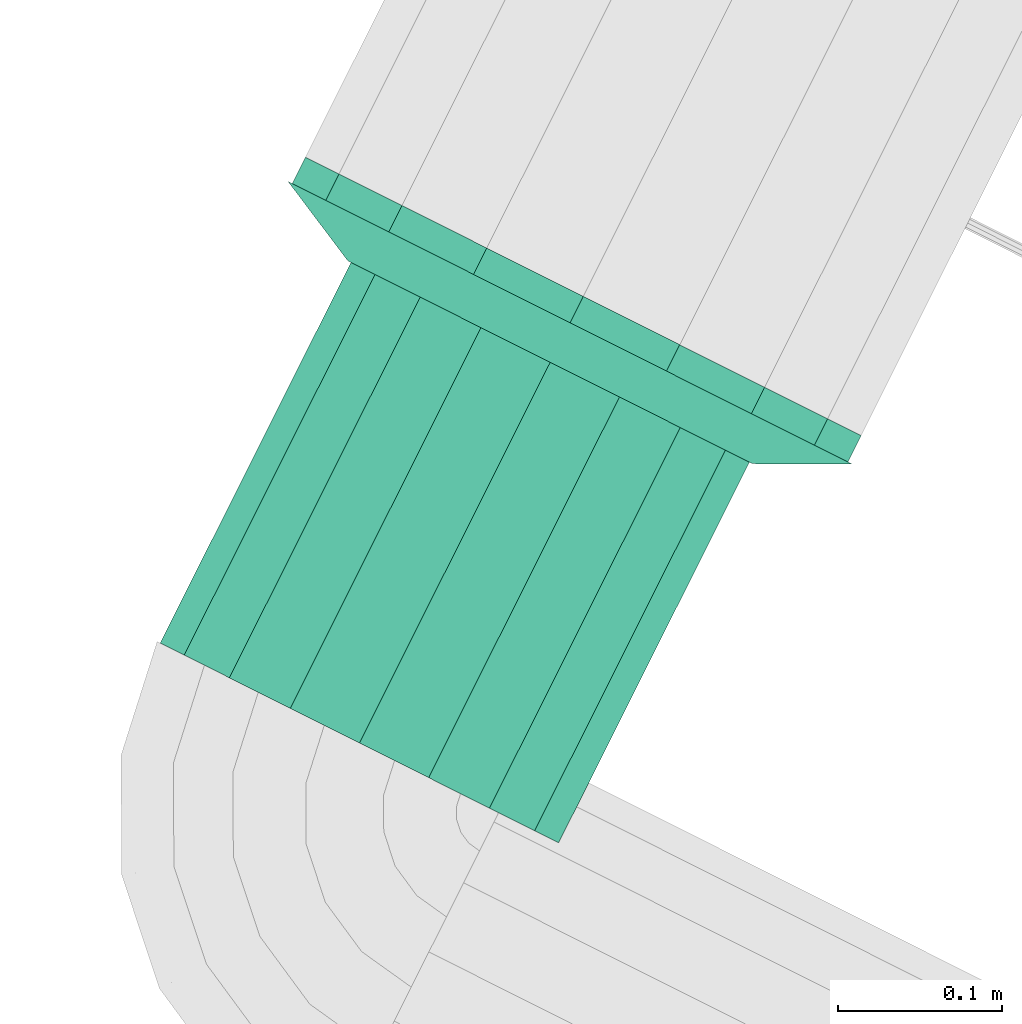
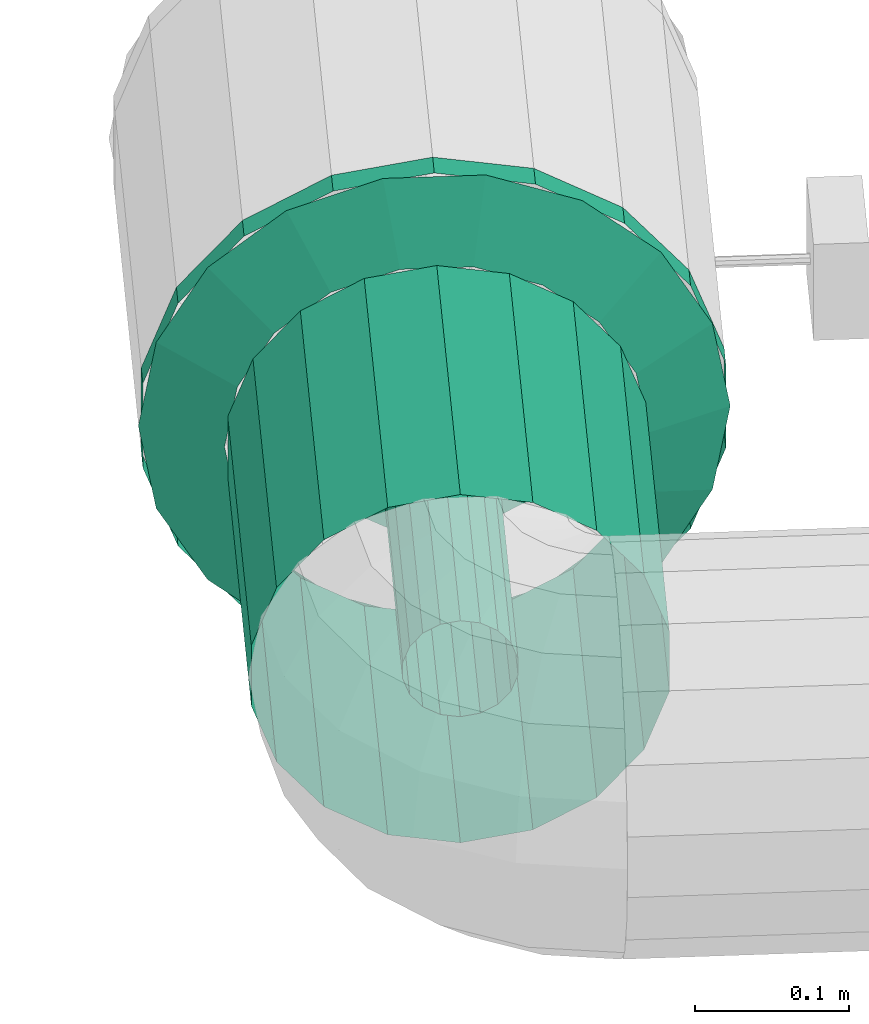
# One storey, part 36 of 152: 1 flow fitting, 1 flow segment.
"""IFC2X3 building model written with IfcOpenShell, lengths in metres."""

from ifc_helpers import new_model, si_unit, derived_unit, direction, frame, origin, place, context, subcontext, project, spatial, face_set, surface_model, source, transform, mapped, material, type_object, type_shapes, element, save


model = new_model("IFC2X3")

# Units and contexts
model_context = context("Model", 3, precision=5.2338327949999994e-05, world=origin(), true_north=direction((0.0, 1.0)))
body_context = subcontext(model_context, "Body", "Model", "MODEL_VIEW")
ifc_project = project(units=[si_unit("LENGTHUNIT", "METRE"), si_unit("AREAUNIT", "SQUARE_METRE"), si_unit("VOLUMEUNIT", "CUBIC_METRE"), si_unit("MASSUNIT", "GRAM", prefix="KILO"), si_unit("PLANEANGLEUNIT", "RADIAN"), derived_unit("THERMALTRANSMITTANCEUNIT", [(si_unit("MASSUNIT", "GRAM", prefix="KILO"), 1), (si_unit("THERMODYNAMICTEMPERATUREUNIT", "KELVIN"), -1), (si_unit("TIMEUNIT", "SECOND"), -3)])], contexts=[model_context])

# Site, building, storey
site_placement = place(None, frame((0.0, 0.0, 0.0), z_axis=(0.0, 0.0, 1.0), x_axis=(0.8939966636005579, -0.4480736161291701, 0.0)))
site = spatial("IfcSite", under=ifc_project, at=site_placement, Name="Default", CompositionType="ELEMENT")
building_placement = place(site_placement, origin())
building = spatial("IfcBuilding", under=site, at=building_placement, CompositionType="ELEMENT")
storey_placement = place(building_placement, frame((0.0, 0.0, 2.7499999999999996)))
storey = spatial("IfcBuildingStorey", under=building, at=storey_placement, Name="1. Obergeschoss", CompositionType="ELEMENT", Elevation=2.7499999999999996)

# Flow fitting
ifc_material = material(Name="IfcSurfaceStyle #1741")
distribution_element_type_1 = type_object("IfcDistributionElementType", Name="Flansch 259128:Flansch 259128", material=ifc_material)
shared_shape_1 = source(origin(), body_context, "Body", "SurfaceModel", [
    surface_model("IfcFaceBasedSurfaceModel", [(14.431319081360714, 6.744494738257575, 5.635640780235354), (14.429024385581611, 6.744494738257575, 5.622626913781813), (14.435555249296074, 6.771494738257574, 5.620249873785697), (14.438269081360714, 6.771494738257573, 5.635640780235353), (14.422417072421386, 6.744494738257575, 5.61118271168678), (14.427741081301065, 6.771494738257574, 5.606715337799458), (14.412294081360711, 6.744494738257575, 5.602688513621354), (14.415769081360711, 6.771494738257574, 5.596669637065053), (14.399876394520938, 6.74449473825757, 5.598168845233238), (14.401083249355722, 6.771494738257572, 5.591324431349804), (14.386661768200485, 6.744494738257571, 5.598168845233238), (14.385454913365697, 6.771494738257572, 5.591324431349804), (14.37424408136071, 6.744494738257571, 5.6026885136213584), (14.370769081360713, 6.7714947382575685, 5.596669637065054), (14.364121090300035, 6.744494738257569, 5.611182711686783), (14.358797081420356, 6.7714947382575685, 5.606715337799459), (14.357513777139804, 6.744494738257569, 5.622626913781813), (14.350982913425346, 6.7714947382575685, 5.620249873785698), (14.355219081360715, 6.744494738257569, 5.635640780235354), (14.34826908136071, 6.7714947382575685, 5.635640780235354), (14.357513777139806, 6.744494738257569, 5.648654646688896), (14.350982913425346, 6.7714947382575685, 5.651031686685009), (14.364121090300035, 6.744494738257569, 5.660098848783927), (14.358797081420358, 6.7714947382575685, 5.664566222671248), (14.374244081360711, 6.744494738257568, 5.668593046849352), (14.370769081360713, 6.7714947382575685, 5.674611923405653), (14.386661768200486, 6.744494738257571, 5.673112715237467), (14.385454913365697, 6.77149473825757, 5.679957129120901), (14.399876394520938, 6.744494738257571, 5.673112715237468), (14.401083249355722, 6.771494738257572, 5.679957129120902), (14.412294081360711, 6.744494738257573, 5.668593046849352), (14.415769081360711, 6.771494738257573, 5.674611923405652), (14.422417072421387, 6.744494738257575, 5.6600988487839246), (14.427741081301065, 6.771494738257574, 5.664566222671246), (14.42902438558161, 6.7444947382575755, 5.648654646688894), (14.435555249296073, 6.771494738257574, 5.651031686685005), (14.393269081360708, 6.77149473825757, 5.7281407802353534), (14.424905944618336, 6.771494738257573, 5.722562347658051), (14.424905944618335, 6.7894947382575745, 5.722562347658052), (14.393269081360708, 6.789494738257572, 5.7281407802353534), (14.452726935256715, 6.7714947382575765, 5.706499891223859), (14.452726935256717, 6.789494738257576, 5.706499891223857), (14.47337643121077, 6.771494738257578, 5.681890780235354), (14.47337643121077, 6.789494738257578, 5.681890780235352), (14.484363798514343, 6.771494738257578, 5.651703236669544), (14.484363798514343, 6.78949473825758, 5.651703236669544), (14.484363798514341, 6.771494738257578, 5.619578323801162), (14.484363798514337, 6.78949473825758, 5.619578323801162), (14.473376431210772, 6.7714947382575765, 5.589390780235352), (14.473376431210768, 6.789494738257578, 5.589390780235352), (14.452726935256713, 6.7714947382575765, 5.564781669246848), (14.452726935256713, 6.789494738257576, 5.564781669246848), (14.424905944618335, 6.771494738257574, 5.548719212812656), (14.424905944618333, 6.789494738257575, 5.548719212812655), (14.393269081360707, 6.771494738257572, 5.543140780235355), (14.393269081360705, 6.789494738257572, 5.543140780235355), (14.361632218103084, 6.771494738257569, 5.548719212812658), (14.361632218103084, 6.789494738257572, 5.548719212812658), (14.333811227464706, 6.771494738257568, 5.564781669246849), (14.333811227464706, 6.789494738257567, 5.564781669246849), (14.313161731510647, 6.771494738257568, 5.589390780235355), (14.313161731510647, 6.789494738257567, 5.589390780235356), (14.302174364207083, 6.771494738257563, 5.619578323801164), (14.302174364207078, 6.789494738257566, 5.619578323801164), (14.302174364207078, 6.771494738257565, 5.651703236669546), (14.302174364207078, 6.789494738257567, 5.6517032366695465), (14.313161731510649, 6.771494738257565, 5.681890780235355), (14.313161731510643, 6.789494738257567, 5.6818907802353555), (14.333811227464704, 6.771494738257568, 5.706499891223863), (14.333811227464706, 6.789494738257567, 5.706499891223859), (14.361632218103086, 6.7714947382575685, 5.722562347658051), (14.361632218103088, 6.78949473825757, 5.722562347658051), (14.393269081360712, 6.77149473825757, 5.635640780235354), (14.531319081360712, 6.74449473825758, 5.635640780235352), (14.522993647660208, 6.744494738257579, 5.588424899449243), (14.574159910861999, 6.771494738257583, 5.5698019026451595), (14.58576908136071, 6.771494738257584, 5.635640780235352), (14.499021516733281, 6.744494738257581, 5.546903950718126), (14.54073263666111, 6.771494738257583, 5.511904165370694), (14.462294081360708, 6.744494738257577, 5.5160859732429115), (14.489519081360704, 6.771494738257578, 5.468930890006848), (14.417241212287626, 6.744494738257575, 5.499688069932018), (14.426696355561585, 6.771494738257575, 5.446065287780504), (14.369296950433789, 6.74449473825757, 5.499688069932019), (14.359841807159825, 6.771494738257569, 5.446065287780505), (14.32424408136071, 6.744494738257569, 5.516085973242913), (14.297019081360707, 6.771494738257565, 5.468930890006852), (14.28751664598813, 6.744494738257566, 5.5469039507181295), (14.245805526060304, 6.771494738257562, 5.511904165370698), (14.263544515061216, 6.744494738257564, 5.588424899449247), (14.212378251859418, 6.771494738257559, 5.569801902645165), (14.255219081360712, 6.744494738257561, 5.635640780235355), (14.20076908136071, 6.771494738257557, 5.635640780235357), (14.263544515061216, 6.744494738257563, 5.682856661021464), (14.212378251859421, 6.771494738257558, 5.701479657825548), (14.287516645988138, 6.744494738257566, 5.724377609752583), (14.245805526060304, 6.771494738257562, 5.759377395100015), (14.324244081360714, 6.7444947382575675, 5.755195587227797), (14.29701908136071, 6.771494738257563, 5.80235067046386), (14.369296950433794, 6.744494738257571, 5.771593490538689), (14.35984180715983, 6.7714947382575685, 5.825216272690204), (14.417241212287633, 6.744494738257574, 5.771593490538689), (14.426696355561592, 6.771494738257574, 5.825216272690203), (14.462294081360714, 6.744494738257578, 5.755195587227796), (14.489519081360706, 6.771494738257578, 5.8023506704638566), (14.499021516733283, 6.744494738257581, 5.724377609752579), (14.540732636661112, 6.771494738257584, 5.759377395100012), (14.522993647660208, 6.74449473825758, 5.682856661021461), (14.574159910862, 6.771494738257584, 5.701479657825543), (14.393269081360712, 6.771494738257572, 5.828140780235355), (14.459107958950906, 6.7714947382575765, 5.816531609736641), (14.459107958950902, 6.789494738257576, 5.816531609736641), (14.393269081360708, 6.789494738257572, 5.828140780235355), (14.51700569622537, 6.771494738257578, 5.783104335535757), (14.51700569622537, 6.789494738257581, 5.783104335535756), (14.559978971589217, 6.771494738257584, 5.731890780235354), (14.559978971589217, 6.789494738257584, 5.731890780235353), (14.582844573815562, 6.771494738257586, 5.669068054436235), (14.582844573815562, 6.789494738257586, 5.669068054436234), (14.58284457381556, 6.7714947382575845, 5.602213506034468), (14.582844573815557, 6.789494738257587, 5.602213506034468), (14.559978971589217, 6.7714947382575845, 5.539390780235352), (14.559978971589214, 6.789494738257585, 5.539390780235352), (14.51700569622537, 6.77149473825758, 5.488177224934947), (14.51700569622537, 6.789494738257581, 5.488177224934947), (14.459107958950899, 6.771494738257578, 5.454749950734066), (14.459107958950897, 6.789494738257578, 5.454749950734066), (14.393269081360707, 6.771494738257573, 5.443140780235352), (14.393269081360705, 6.789494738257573, 5.443140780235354), (14.327430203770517, 6.7714947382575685, 5.454749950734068), (14.327430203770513, 6.789494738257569, 5.454749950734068), (14.269532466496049, 6.771494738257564, 5.488177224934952), (14.269532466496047, 6.789494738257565, 5.488177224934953), (14.226559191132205, 6.77149473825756, 5.5393907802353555), (14.226559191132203, 6.789494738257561, 5.539390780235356), (14.203693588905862, 6.771494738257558, 5.602213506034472), (14.203693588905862, 6.789494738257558, 5.602213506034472), (14.203693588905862, 6.771494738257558, 5.669068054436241), (14.203693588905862, 6.7894947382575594, 5.669068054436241), (14.226559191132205, 6.771494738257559, 5.731890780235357), (14.226559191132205, 6.7894947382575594, 5.731890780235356), (14.26953246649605, 6.771494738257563, 5.78310433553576), (14.269532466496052, 6.789494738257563, 5.78310433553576), (14.32743020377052, 6.771494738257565, 5.816531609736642), (14.32743020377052, 6.789494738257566, 5.816531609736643)], [face_set([[[0, 1, 2, 3]], [[1, 4, 5, 2]], [[4, 6, 7, 5]], [[6, 8, 9, 7]], [[8, 10, 11, 9]], [[10, 12, 13, 11]], [[12, 14, 15, 13]], [[14, 16, 17, 15]], [[16, 18, 19, 17]], [[18, 20, 21, 19]], [[20, 22, 23, 21]], [[22, 24, 25, 23]], [[24, 26, 27, 25]], [[26, 28, 29, 27]], [[28, 30, 31, 29]], [[30, 32, 33, 31]], [[32, 34, 35, 33]], [[34, 0, 3, 35]], [[36, 37, 38, 39]], [[37, 40, 41, 38]], [[40, 42, 43, 41]], [[42, 44, 45, 43]], [[44, 46, 47, 45]], [[46, 48, 49, 47]], [[48, 50, 51, 49]], [[50, 52, 53, 51]], [[52, 54, 55, 53]], [[54, 56, 57, 55]], [[56, 58, 59, 57]], [[58, 60, 61, 59]], [[60, 62, 63, 61]], [[62, 64, 65, 63]], [[64, 66, 67, 65]], [[66, 68, 69, 67]], [[68, 70, 71, 69]], [[70, 36, 39, 71]], [[72, 37, 36]], [[72, 40, 37]], [[72, 42, 40]], [[72, 44, 42]], [[72, 46, 44]], [[72, 48, 46]], [[72, 50, 48]], [[72, 52, 50]], [[72, 54, 52]], [[72, 56, 54]], [[72, 58, 56]], [[72, 60, 58]], [[72, 62, 60]], [[72, 64, 62]], [[72, 66, 64]], [[72, 68, 66]], [[72, 70, 68]], [[72, 36, 70]], [[73, 74, 75, 76]], [[74, 77, 78, 75]], [[77, 79, 80, 78]], [[79, 81, 82, 80]], [[81, 83, 84, 82]], [[83, 85, 86, 84]], [[85, 87, 88, 86]], [[87, 89, 90, 88]], [[89, 91, 92, 90]], [[91, 93, 94, 92]], [[93, 95, 96, 94]], [[95, 97, 98, 96]], [[97, 99, 100, 98]], [[99, 101, 102, 100]], [[101, 103, 104, 102]], [[103, 105, 106, 104]], [[105, 107, 108, 106]], [[107, 73, 76, 108]], [[109, 110, 111, 112]], [[110, 113, 114, 111]], [[113, 115, 116, 114]], [[115, 117, 118, 116]], [[117, 119, 120, 118]], [[119, 121, 122, 120]], [[121, 123, 124, 122]], [[123, 125, 126, 124]], [[125, 127, 128, 126]], [[127, 129, 130, 128]], [[129, 131, 132, 130]], [[131, 133, 134, 132]], [[133, 135, 136, 134]], [[135, 137, 138, 136]], [[137, 139, 140, 138]], [[139, 141, 142, 140]], [[141, 143, 144, 142]], [[143, 109, 112, 144]]])]),
])
type_shapes(distribution_element_type_1, [shared_shape_1])
flow_fitting_placement = place(storey_placement, frame((0.0, 0.0, -2.7499999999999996)))
element("IfcFlowFitting", 1, at=flow_fitting_placement, inside=storey, type_object=distribution_element_type_1, material=ifc_material, Name="Flansch", ObjectType="Flansch", context=body_context, shape_type="MappedRepresentation", body=[
    mapped(shared_shape_1, transform((0.0, 0.0, 0.0), scale=1.0)),
])

# Flow segment
distribution_element_type_2 = type_object("IfcDistributionElementType", Name="Stahlrohr nach DIN 2448 259157:Stahlrohr nach DIN 2448 259157", material=ifc_material)
shared_shape_2 = source(origin(), body_context, "Body", "SurfaceModel", [
    surface_model("IfcFaceBasedSurfaceModel", [(14.393269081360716, 6.744494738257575, 5.673690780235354), (14.380255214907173, 6.744494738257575, 5.671396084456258), (14.380255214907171, 6.484750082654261, 5.671396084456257), (14.393269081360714, 6.484750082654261, 5.673690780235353), (14.368811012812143, 6.744494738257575, 5.664788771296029), (14.368811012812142, 6.484750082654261, 5.664788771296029), (14.360316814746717, 6.744494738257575, 5.654665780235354), (14.360316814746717, 6.484750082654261, 5.654665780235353), (14.355797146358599, 6.744494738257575, 5.6422480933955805), (14.355797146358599, 6.484750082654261, 5.6422480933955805), (14.355797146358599, 6.744494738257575, 5.629033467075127), (14.355797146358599, 6.484750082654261, 5.629033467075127), (14.360316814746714, 6.744494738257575, 5.616615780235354), (14.360316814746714, 6.484750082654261, 5.616615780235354), (14.368811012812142, 6.744494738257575, 5.606492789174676), (14.36881101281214, 6.484750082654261, 5.606492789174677), (14.380255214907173, 6.744494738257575, 5.599885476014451), (14.380255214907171, 6.484750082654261, 5.59988547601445), (14.393269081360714, 6.744494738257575, 5.597590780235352), (14.393269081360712, 6.484750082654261, 5.597590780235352), (14.406282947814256, 6.744494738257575, 5.59988547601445), (14.406282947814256, 6.484750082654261, 5.59988547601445), (14.417727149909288, 6.744494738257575, 5.606492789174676), (14.417727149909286, 6.484750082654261, 5.606492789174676), (14.42622134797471, 6.744494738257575, 5.616615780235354), (14.42622134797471, 6.484750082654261, 5.616615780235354), (14.43074101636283, 6.744494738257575, 5.629033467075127), (14.43074101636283, 6.484750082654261, 5.629033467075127), (14.43074101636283, 6.744494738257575, 5.6422480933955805), (14.430741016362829, 6.484750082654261, 5.6422480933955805), (14.42622134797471, 6.744494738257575, 5.654665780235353), (14.42622134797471, 6.484750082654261, 5.654665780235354), (14.417727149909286, 6.744494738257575, 5.664788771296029), (14.417727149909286, 6.484750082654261, 5.66478877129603), (14.406282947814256, 6.744494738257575, 5.671396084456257), (14.406282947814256, 6.484750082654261, 5.671396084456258), (14.393269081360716, 6.744494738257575, 5.773690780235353), (14.34605320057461, 6.744494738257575, 5.7653653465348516), (14.346053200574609, 6.484750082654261, 5.76536534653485), (14.393269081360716, 6.484750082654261, 5.773690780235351), (14.304532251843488, 6.744494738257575, 5.741393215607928), (14.304532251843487, 6.484750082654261, 5.741393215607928), (14.273714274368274, 6.744494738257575, 5.704665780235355), (14.273714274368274, 6.484750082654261, 5.704665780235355), (14.257316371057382, 6.744494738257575, 5.659612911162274), (14.257316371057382, 6.484750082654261, 5.659612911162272), (14.257316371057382, 6.744494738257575, 5.6116686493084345), (14.25731637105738, 6.484750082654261, 5.6116686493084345), (14.273714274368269, 6.744494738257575, 5.566615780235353), (14.273714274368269, 6.484750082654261, 5.566615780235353), (14.304532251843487, 6.744494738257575, 5.529888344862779), (14.304532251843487, 6.484750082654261, 5.529888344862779), (14.346053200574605, 6.744494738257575, 5.5059162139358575), (14.346053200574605, 6.484750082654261, 5.5059162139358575), (14.393269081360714, 6.744494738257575, 5.497590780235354), (14.393269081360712, 6.484750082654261, 5.497590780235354), (14.440484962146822, 6.744494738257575, 5.5059162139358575), (14.44048496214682, 6.484750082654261, 5.505916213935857), (14.482005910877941, 6.744494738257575, 5.529888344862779), (14.482005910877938, 6.484750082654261, 5.529888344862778), (14.512823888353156, 6.744494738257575, 5.566615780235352), (14.512823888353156, 6.484750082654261, 5.566615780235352), (14.52922179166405, 6.744494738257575, 5.611668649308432), (14.52922179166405, 6.484750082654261, 5.611668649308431), (14.52922179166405, 6.744494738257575, 5.659612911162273), (14.529221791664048, 6.484750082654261, 5.659612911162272), (14.512823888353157, 6.744494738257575, 5.704665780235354), (14.512823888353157, 6.484750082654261, 5.704665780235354), (14.482005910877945, 6.744494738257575, 5.741393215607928), (14.482005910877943, 6.484750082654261, 5.741393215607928), (14.440484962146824, 6.744494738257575, 5.765365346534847), (14.440484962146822, 6.484750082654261, 5.765365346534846)], [face_set([[[0, 1, 2, 3]], [[1, 4, 5, 2]], [[4, 6, 7, 5]], [[6, 8, 9, 7]], [[8, 10, 11, 9]], [[10, 12, 13, 11]], [[12, 14, 15, 13]], [[14, 16, 17, 15]], [[16, 18, 19, 17]], [[18, 20, 21, 19]], [[20, 22, 23, 21]], [[22, 24, 25, 23]], [[24, 26, 27, 25]], [[26, 28, 29, 27]], [[28, 30, 31, 29]], [[30, 32, 33, 31]], [[32, 34, 35, 33]], [[34, 0, 3, 35]], [[36, 37, 38, 39]], [[37, 40, 41, 38]], [[40, 42, 43, 41]], [[42, 44, 45, 43]], [[44, 46, 47, 45]], [[46, 48, 49, 47]], [[48, 50, 51, 49]], [[50, 52, 53, 51]], [[52, 54, 55, 53]], [[54, 56, 57, 55]], [[56, 58, 59, 57]], [[58, 60, 61, 59]], [[60, 62, 63, 61]], [[62, 64, 65, 63]], [[64, 66, 67, 65]], [[66, 68, 69, 67]], [[68, 70, 71, 69]], [[70, 36, 39, 71]]])]),
])
type_shapes(distribution_element_type_2, [shared_shape_2])
flow_segment_placement = place(storey_placement, frame((0.0, 0.0, -2.7499999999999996)))
element("IfcFlowSegment", 2, at=flow_segment_placement, inside=storey, type_object=distribution_element_type_2, material=ifc_material, Name="Stahlrohr nach DIN 2448", ObjectType="Stahlrohr nach DIN 2448", context=body_context, shape_type="MappedRepresentation", body=[
    mapped(shared_shape_2, transform((0.0, 0.0, 0.0), scale=1.0)),
])

save(model, "model.ifc")
